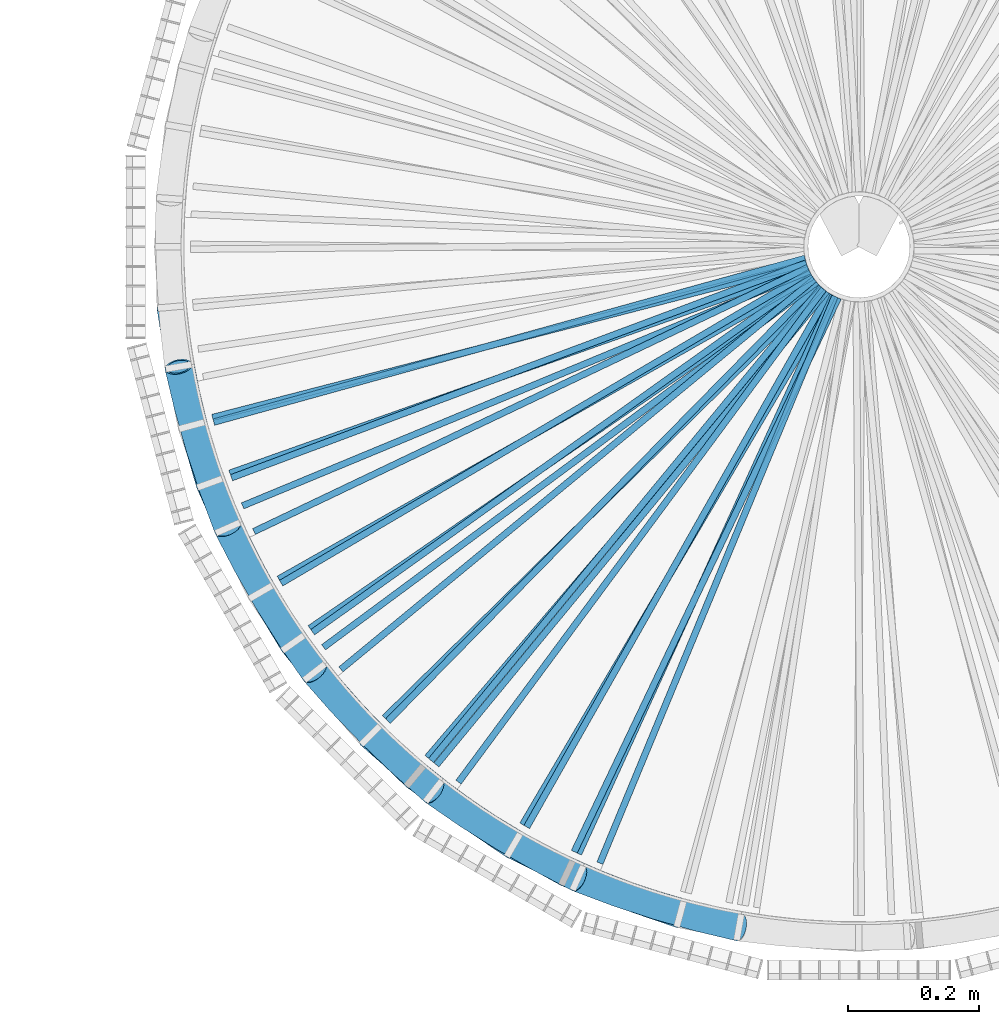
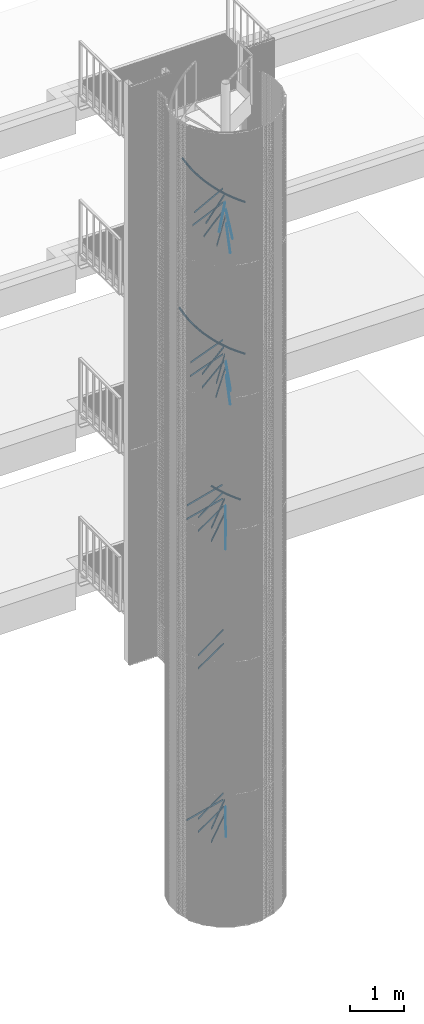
# One storey, part 374 of 1148: 32 beams, 12 members, 16 elements without a shape of their own.
"""IFC2X3 building model written with IfcOpenShell, lengths in millimetres."""

from ifc_helpers import new_model, entity, si_unit, frame, origin_with_axes, origin_2d_with_axis, place, context, subcontext, project, spatial, rectangle, extrude, material, type_object, element, aggregate, save


model = new_model("IFC2X3")

# Units and contexts
model_context = context("Model", 3, precision=1e-05, world=origin_with_axes())
body_context = subcontext(model_context, "Body", "Model", "MODEL_VIEW")
ifc_project = project(units=[si_unit("LENGTHUNIT", "METRE", prefix="MILLI"), si_unit("AREAUNIT", "SQUARE_METRE"), si_unit("VOLUMEUNIT", "CUBIC_METRE"), si_unit("MASSUNIT", "GRAM", prefix="KILO"), si_unit("TIMEUNIT", "SECOND"), si_unit("PLANEANGLEUNIT", "RADIAN"), si_unit("SOLIDANGLEUNIT", "STERADIAN"), si_unit("THERMODYNAMICTEMPERATUREUNIT", "DEGREE_CELSIUS"), si_unit("LUMINOUSINTENSITYUNIT", "LUMEN")], contexts=[model_context])

# Site, building, storey
site_placement = place(None, origin_with_axes())
site = spatial("IfcSite", under=ifc_project, at=site_placement, Name="Undefined", CompositionType="ELEMENT")
building_placement = place(site_placement, origin_with_axes())
building = spatial("IfcBuilding", under=site, at=building_placement, Name="Undefined", CompositionType="ELEMENT")
storey_placement = place(building_placement, origin_with_axes())
storey = spatial("IfcBuildingStorey", under=building, at=storey_placement, Name="Undefined", CompositionType="ELEMENT", Elevation=0.0)

# Assembly, beams
assembly_1_placement = place(storey_placement, origin_with_axes())
assembly_1 = element("IfcElementAssembly", 1, at=assembly_1_placement, inside=storey, Name="POTEAU", AssemblyPlace="NOTDEFINED", PredefinedType="NOTDEFINED")
ifc_material = material(Name="STEEL/S235JR")
beam_type = type_object("IfcBeamType", Name="PL10*40", PredefinedType="NOTDEFINED")
beam_1_placement = place(assembly_1_placement, frame((21537.6063324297, -56.3278473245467, 2139.28), z_axis=(0.0, 0.0, 1.0), x_axis=(-0.701092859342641, -0.713069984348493, 0.0)))
beam_1 = element("IfcBeam", 2, at=beam_1_placement, type_object=beam_type, material=ifc_material, Name="RAIDISSEUR", context=body_context, shape_type="SweptSolid", body=[
    extrude(rectangle(XDim=10.0, YDim=40.0, at=origin_2d_with_axis()), frame((935.982964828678, -2.59787459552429e-14, -3.63797880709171e-12), z_axis=(-1.0, 0.0, 0.0), x_axis=(0.0, -1.0, 0.0)), (0.0, 0.0, 1.0), 935.98),
])
beam_2_placement = place(assembly_1_placement, frame((21525.153625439, -38.2598530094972, 6002.28000000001), z_axis=(0.0, 0.0, 1.0), x_axis=(-0.861759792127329, -0.507316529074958, 0.0)))
beam_2 = element("IfcBeam", 3, at=beam_2_placement, type_object=beam_type, material=ifc_material, Name="RAIDISSEUR", context=body_context, shape_type="SweptSolid", body=[
    extrude(rectangle(XDim=10.0, YDim=40.0, at=origin_2d_with_axis()), frame((935.982964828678, -2.59787459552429e-14, -3.63797880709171e-12), z_axis=(-1.0, 0.0, 0.0), x_axis=(0.0, -1.0, 0.0)), (0.0, 0.0, 1.0), 935.98),
])
beam_3_placement = place(assembly_1_placement, frame((21554.3110647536, -70.5571919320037, 1984.76), z_axis=(0.0, 0.0, 1.0), x_axis=(-0.492647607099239, -0.870228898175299, 0.0)))
beam_3 = element("IfcBeam", 4, at=beam_3_placement, type_object=beam_type, material=ifc_material, Name="RAIDISSEUR", context=body_context, shape_type="SweptSolid", body=[
    extrude(rectangle(XDim=10.0, YDim=40.0, at=origin_2d_with_axis()), frame((935.982964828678, -2.59787459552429e-14, -3.63797880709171e-12), z_axis=(-1.0, 0.0, 0.0), x_axis=(0.0, -1.0, 0.0)), (0.0, 0.0, 1.0), 935.98),
])

assembly_2_placement = place(storey_placement, origin_with_axes())
assembly_2 = element("IfcElementAssembly", 5, at=assembly_2_placement, inside=storey, Name="POTEAU", AssemblyPlace="NOTDEFINED", PredefinedType="NOTDEFINED")
beam_4_placement = place(assembly_2_placement, frame((21550.5026367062, -67.939731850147, 15387.72), z_axis=(0.0, 0.0, 1.0), x_axis=(-0.635879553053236, -0.771788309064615, 0.0)))
beam_4 = element("IfcBeam", 6, at=beam_4_placement, type_object=beam_type, material=ifc_material, Name="RAIDISSEUR", context=body_context, shape_type="SweptSolid", body=[
    extrude(rectangle(XDim=10.0, YDim=40.0, at=origin_2d_with_axis()), frame((935.982964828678, -2.59787459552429e-14, -3.63797880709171e-12), z_axis=(-1.0, 0.0, 0.0), x_axis=(0.0, -1.0, 0.0)), (0.0, 0.0, 1.0), 935.98),
])
beam_5_placement = place(assembly_2_placement, frame((21563.2503817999, -75.5993498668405, 15544.24), z_axis=(0.0, 0.0, 1.0), x_axis=(-0.382921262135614, -0.923780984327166, 0.0)))
beam_5 = element("IfcBeam", 7, at=beam_5_placement, type_object=beam_type, material=ifc_material, Name="RAIDISSEUR", context=body_context, shape_type="SweptSolid", body=[
    extrude(rectangle(XDim=10.0, YDim=40.0, at=origin_2d_with_axis()), frame((935.982964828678, -2.59787459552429e-14, -3.63797880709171e-12), z_axis=(-1.0, 0.0, 0.0), x_axis=(0.0, -1.0, 0.0)), (0.0, 0.0, 1.0), 935.98),
])
beam_6_placement = place(assembly_2_placement, frame((21532.0602681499, -49.4973632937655, 15857.28), z_axis=(0.0, 0.0, 1.0), x_axis=(-0.771788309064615, -0.635879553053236, 0.0)))
beam_6 = element("IfcBeam", 8, at=beam_6_placement, type_object=beam_type, material=ifc_material, Name="RAIDISSEUR", context=body_context, shape_type="SweptSolid", body=[
    extrude(rectangle(XDim=10.0, YDim=40.0, at=origin_2d_with_axis()), frame((935.982964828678, -2.59787459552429e-14, -3.63797880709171e-12), z_axis=(-1.0, 0.0, 0.0), x_axis=(0.0, -1.0, 0.0)), (0.0, 0.0, 1.0), 935.98),
])
beam_7_placement = place(assembly_2_placement, frame((21522.1038725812, -31.5909713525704, 16013.8), z_axis=(0.0, 0.0, 1.0), x_axis=(-0.902696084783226, -0.430278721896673, 0.0)))
beam_7 = element("IfcBeam", 9, at=beam_7_placement, type_object=beam_type, material=ifc_material, Name="RAIDISSEUR", context=body_context, shape_type="SweptSolid", body=[
    extrude(rectangle(XDim=10.0, YDim=40.0, at=origin_2d_with_axis()), frame((935.982964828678, -2.59787459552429e-14, -3.63797880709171e-12), z_axis=(-1.0, 0.0, 0.0), x_axis=(0.0, -1.0, 0.0)), (0.0, 0.0, 1.0), 935.98),
])
beam_8_placement = place(assembly_2_placement, frame((21546.0528644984, -64.4631887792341, 15700.76), z_axis=(0.0, 0.0, 1.0), x_axis=(-0.595029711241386, -0.803703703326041, 0.0)))
beam_8 = element("IfcBeam", 10, at=beam_8_placement, type_object=beam_type, material=ifc_material, Name="RAIDISSEUR", context=body_context, shape_type="SweptSolid", body=[
    extrude(rectangle(XDim=10.0, YDim=40.0, at=origin_2d_with_axis()), frame((935.982964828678, -2.59787459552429e-14, -3.63797880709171e-12), z_axis=(-1.0, 0.0, 0.0), x_axis=(0.0, -1.0, 0.0)), (0.0, 0.0, 1.0), 935.98),
])
beam_9_placement = place(assembly_2_placement, frame((21568.4090286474, -77.896127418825, 15231.2), z_axis=(0.0, 0.0, 1.0), x_axis=(-0.430278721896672, -0.902696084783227, 0.0)))
beam_9 = element("IfcBeam", 11, at=beam_9_placement, type_object=beam_type, material=ifc_material, Name="RAIDISSEUR", context=body_context, shape_type="SweptSolid", body=[
    extrude(rectangle(XDim=10.0, YDim=40.0, at=origin_2d_with_axis()), frame((935.982964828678, -2.59787459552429e-14, -3.63797880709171e-12), z_axis=(-1.0, 0.0, 0.0), x_axis=(0.0, -1.0, 0.0)), (0.0, 0.0, 1.0), 935.98),
])
beam_10_placement = place(assembly_2_placement, frame((21535.5368112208, -53.9471355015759, 15544.24), z_axis=(0.0, 0.0, 1.0), x_axis=(-0.80370370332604, -0.595029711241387, 0.0)))
beam_10 = element("IfcBeam", 12, at=beam_10_placement, type_object=beam_type, material=ifc_material, Name="RAIDISSEUR", context=body_context, shape_type="SweptSolid", body=[
    extrude(rectangle(XDim=10.0, YDim=40.0, at=origin_2d_with_axis()), frame((935.982964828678, -2.59787459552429e-14, -3.63797880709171e-12), z_axis=(-1.0, 0.0, 0.0), x_axis=(0.0, -1.0, 0.0)), (0.0, 0.0, 1.0), 935.98),
])
beam_11_placement = place(assembly_2_placement, frame((21524.4006501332, -36.7496182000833, 15700.76), z_axis=(0.0, 0.0, 1.0), x_axis=(-0.923780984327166, -0.382921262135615, 0.0)))
beam_11 = element("IfcBeam", 13, at=beam_11_placement, type_object=beam_type, material=ifc_material, Name="RAIDISSEUR", context=body_context, shape_type="SweptSolid", body=[
    extrude(rectangle(XDim=10.0, YDim=40.0, at=origin_2d_with_axis()), frame((935.982964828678, -2.59787459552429e-14, -3.63797880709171e-12), z_axis=(-1.0, 0.0, 0.0), x_axis=(0.0, -1.0, 0.0)), (0.0, 0.0, 1.0), 935.98),
])
aggregate(assembly_2, [beam_4, beam_5, beam_6, beam_7, beam_8, beam_9, beam_10, beam_11])

assembly_3_placement = place(storey_placement, origin_with_axes())
assembly_3 = element("IfcElementAssembly", 14, at=assembly_3_placement, inside=storey, Name="POTEAU", AssemblyPlace="NOTDEFINED", PredefinedType="NOTDEFINED")
beam_12_placement = place(assembly_3_placement, frame((21533.6933525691, -51.6645395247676, 12100.76), z_axis=(0.0, 0.0, 1.0), x_axis=(-0.823980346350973, -0.56661838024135, 0.0)))
beam_12 = element("IfcBeam", 15, at=beam_12_placement, type_object=beam_type, material=ifc_material, Name="RAIDISSEUR", context=body_context, shape_type="SweptSolid", body=[
    extrude(rectangle(XDim=10.0, YDim=40.0, at=origin_2d_with_axis()), frame((935.982964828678, -2.59787459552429e-14, -3.63797880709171e-12), z_axis=(-1.0, 0.0, 0.0), x_axis=(0.0, -1.0, 0.0)), (0.0, 0.0, 1.0), 935.98),
])
beam_13_placement = place(assembly_3_placement, frame((21560.6343894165, -74.2707535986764, 12100.76), z_axis=(0.0, 0.0, 1.0), x_axis=(-0.414927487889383, -0.909854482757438, 0.0)))
beam_13 = element("IfcBeam", 16, at=beam_13_placement, type_object=beam_type, material=ifc_material, Name="RAIDISSEUR", context=body_context, shape_type="SweptSolid", body=[
    extrude(rectangle(XDim=10.0, YDim=40.0, at=origin_2d_with_axis()), frame((935.982964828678, -2.59787459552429e-14, -3.63797880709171e-12), z_axis=(-1.0, 0.0, 0.0), x_axis=(0.0, -1.0, 0.0)), (0.0, 0.0, 1.0), 935.98),
])
beam_14_placement = place(assembly_3_placement, frame((21528.7730044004, -44.6375540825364, 12413.8), z_axis=(0.0, 0.0, 1.0), x_axis=(-0.814264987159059, -0.580493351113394, 0.0)))
beam_14 = element("IfcBeam", 17, at=beam_14_placement, type_object=beam_type, material=ifc_material, Name="RAIDISSEUR", context=body_context, shape_type="SweptSolid", body=[
    extrude(rectangle(XDim=10.0, YDim=40.0, at=origin_2d_with_axis()), frame((935.982964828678, -2.59787459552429e-14, -3.63797880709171e-12), z_axis=(-1.0, 0.0, 0.0), x_axis=(0.0, -1.0, 0.0)), (0.0, 0.0, 1.0), 935.98),
])
beam_15_placement = place(assembly_3_placement, frame((21519.6469562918, -24.6816633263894, 12570.32), z_axis=(0.0, 0.0, 1.0), x_axis=(-0.936762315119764, -0.349966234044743, 0.0)))
beam_15 = element("IfcBeam", 18, at=beam_15_placement, type_object=beam_type, material=ifc_material, Name="RAIDISSEUR", context=body_context, shape_type="SweptSolid", body=[
    extrude(rectangle(XDim=10.0, YDim=40.0, at=origin_2d_with_axis()), frame((935.982964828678, -2.59787459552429e-14, -3.63797880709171e-12), z_axis=(-1.0, 0.0, 0.0), x_axis=(0.0, -1.0, 0.0)), (0.0, 0.0, 1.0), 935.98),
])
beam_16_placement = place(assembly_3_placement, frame((21542.753054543, -61.5514692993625, 12257.28), z_axis=(0.0, 0.0, 1.0), x_axis=(-0.636276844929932, -0.771460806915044, 0.0)))
beam_16 = element("IfcBeam", 19, at=beam_16_placement, type_object=beam_type, material=ifc_material, Name="RAIDISSEUR", context=body_context, shape_type="SweptSolid", body=[
    extrude(rectangle(XDim=10.0, YDim=40.0, at=origin_2d_with_axis()), frame((935.982964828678, -2.59787459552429e-14, -3.63797880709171e-12), z_axis=(-1.0, 0.0, 0.0), x_axis=(0.0, -1.0, 0.0)), (0.0, 0.0, 1.0), 935.98),
])
beam_17_placement = place(assembly_3_placement, frame((21568.4090286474, -77.8961274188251, 11787.72), z_axis=(0.0, 0.0, 1.0), x_axis=(-0.430278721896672, -0.902696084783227, 0.0)))
beam_17 = element("IfcBeam", 20, at=beam_17_placement, type_object=beam_type, material=ifc_material, Name="RAIDISSEUR", context=body_context, shape_type="SweptSolid", body=[
    extrude(rectangle(XDim=10.0, YDim=40.0, at=origin_2d_with_axis()), frame((935.982964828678, -2.59787459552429e-14, -3.63797880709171e-12), z_axis=(-1.0, 0.0, 0.0), x_axis=(0.0, -1.0, 0.0)), (0.0, 0.0, 1.0), 935.98),
])
beam_18_placement = place(assembly_3_placement, frame((21549.3244635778, -67.0655362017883, 11944.24), z_axis=(0.0, 0.0, 1.0), x_axis=(-0.649252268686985, -0.760573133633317, 0.0)))
beam_18 = element("IfcBeam", 21, at=beam_18_placement, type_object=beam_type, material=ifc_material, Name="RAIDISSEUR", context=body_context, shape_type="SweptSolid", body=[
    extrude(rectangle(XDim=10.0, YDim=40.0, at=origin_2d_with_axis()), frame((935.982964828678, -2.59787459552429e-14, -3.63797880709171e-12), z_axis=(-1.0, 0.0, 0.0), x_axis=(0.0, -1.0, 0.0)), (0.0, 0.0, 1.0), 935.98),
])
beam_19_placement = place(assembly_3_placement, frame((21522.5809300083, -32.7426898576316, 12257.28), z_axis=(0.0, 0.0, 1.0), x_axis=(-0.942555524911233, -0.33404952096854, 0.0)))
beam_19 = element("IfcBeam", 22, at=beam_19_placement, type_object=beam_type, material=ifc_material, Name="RAIDISSEUR", context=body_context, shape_type="SweptSolid", body=[
    extrude(rectangle(XDim=10.0, YDim=40.0, at=origin_2d_with_axis()), frame((935.982964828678, -2.59787459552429e-14, -3.63797880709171e-12), z_axis=(-1.0, 0.0, 0.0), x_axis=(0.0, -1.0, 0.0)), (0.0, 0.0, 1.0), 935.98),
])
aggregate(assembly_3, [beam_12, beam_13, beam_14, beam_15, beam_16, beam_17, beam_18, beam_19])

assembly_4_placement = place(storey_placement, origin_with_axes())
assembly_4 = element("IfcElementAssembly", 23, at=assembly_4_placement, inside=storey, Name="POTEAU", AssemblyPlace="NOTDEFINED", PredefinedType="NOTDEFINED")
beam_20_placement = place(assembly_4_placement, frame((21561.7401469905, -74.8463745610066, 8500.76000000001), z_axis=(0.0, 0.0, 1.0), x_axis=(-0.50731652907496, -0.861759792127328, 0.0)))
beam_20 = element("IfcBeam", 24, at=beam_20_placement, type_object=beam_type, material=ifc_material, Name="RAIDISSEUR", context=body_context, shape_type="SweptSolid", body=[
    extrude(rectangle(XDim=10.0, YDim=40.0, at=origin_2d_with_axis()), frame((935.982964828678, -2.59787459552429e-14, -3.63797880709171e-12), z_axis=(-1.0, 0.0, 0.0), x_axis=(0.0, -1.0, 0.0)), (0.0, 0.0, 1.0), 935.98),
])
beam_21_placement = place(assembly_4_placement, frame((21520.0218194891, -25.8705774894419, 8970.32000000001), z_axis=(0.0, 0.0, 1.0), x_axis=(-0.968083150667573, -0.250629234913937, 0.0)))
beam_21 = element("IfcBeam", 25, at=beam_21_placement, type_object=beam_type, material=ifc_material, Name="RAIDISSEUR", context=body_context, shape_type="SweptSolid", body=[
    extrude(rectangle(XDim=10.0, YDim=40.0, at=origin_2d_with_axis()), frame((935.982964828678, -2.59787459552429e-14, -3.63797880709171e-12), z_axis=(-1.0, 0.0, 0.0), x_axis=(0.0, -1.0, 0.0)), (0.0, 0.0, 1.0), 935.98),
])
beam_22_placement = place(assembly_4_placement, frame((21525.153625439, -38.2598530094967, 9126.84000000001), z_axis=(0.0, 0.0, 1.0), x_axis=(-0.861759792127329, -0.507316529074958, 0.0)))
beam_22 = element("IfcBeam", 26, at=beam_22_placement, type_object=beam_type, material=ifc_material, Name="RAIDISSEUR", context=body_context, shape_type="SweptSolid", body=[
    extrude(rectangle(XDim=10.0, YDim=40.0, at=origin_2d_with_axis()), frame((935.982964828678, -2.59787459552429e-14, -3.63797880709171e-12), z_axis=(-1.0, 0.0, 0.0), x_axis=(0.0, -1.0, 0.0)), (0.0, 0.0, 1.0), 935.98),
])
beam_23_placement = place(assembly_4_placement, frame((21537.6063324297, -56.3278473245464, 8970.32000000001), z_axis=(0.0, 0.0, 1.0), x_axis=(-0.701092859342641, -0.713069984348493, 0.0)))
beam_23 = element("IfcBeam", 27, at=beam_23_placement, type_object=beam_type, material=ifc_material, Name="RAIDISSEUR", context=body_context, shape_type="SweptSolid", body=[
    extrude(rectangle(XDim=10.0, YDim=40.0, at=origin_2d_with_axis()), frame((935.982964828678, -2.59787459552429e-14, -3.63797880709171e-12), z_axis=(-1.0, 0.0, 0.0), x_axis=(0.0, -1.0, 0.0)), (0.0, 0.0, 1.0), 935.98),
])
beam_24_placement = place(assembly_4_placement, frame((21529.442808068, -45.6889352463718, 8813.80000000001), z_axis=(0.0, 0.0, 1.0), x_axis=(-0.870228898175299, -0.492647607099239, 0.0)))
beam_24 = element("IfcBeam", 28, at=beam_24_placement, type_object=beam_type, material=ifc_material, Name="RAIDISSEUR", context=body_context, shape_type="SweptSolid", body=[
    extrude(rectangle(XDim=10.0, YDim=40.0, at=origin_2d_with_axis()), frame((935.982964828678, -2.59787459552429e-14, -3.63797880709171e-12), z_axis=(-1.0, 0.0, 0.0), x_axis=(0.0, -1.0, 0.0)), (0.0, 0.0, 1.0), 935.98),
])
beam_25_placement = place(assembly_4_placement, frame((21517.8015751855, -17.584512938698, 9283.36000000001), z_axis=(0.0, 0.0, 1.0), x_axis=(-0.963699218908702, -0.266990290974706, 0.0)))
beam_25 = element("IfcBeam", 29, at=beam_25_placement, type_object=beam_type, material=ifc_material, Name="RAIDISSEUR", context=body_context, shape_type="SweptSolid", body=[
    extrude(rectangle(XDim=10.0, YDim=40.0, at=origin_2d_with_axis()), frame((935.982964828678, -2.59787459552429e-14, -3.63797880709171e-12), z_axis=(-1.0, 0.0, 0.0), x_axis=(0.0, -1.0, 0.0)), (0.0, 0.0, 1.0), 935.98),
])
beam_26_placement = place(assembly_4_placement, frame((21543.6721526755, -62.3936675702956, 8657.28000000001), z_axis=(0.0, 0.0, 1.0), x_axis=(-0.713069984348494, -0.70109285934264, 0.0)))
beam_26 = element("IfcBeam", 30, at=beam_26_placement, type_object=beam_type, material=ifc_material, Name="RAIDISSEUR", context=body_context, shape_type="SweptSolid", body=[
    extrude(rectangle(XDim=10.0, YDim=40.0, at=origin_2d_with_axis()), frame((935.982964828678, -2.59787459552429e-14, -3.63797880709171e-12), z_axis=(-1.0, 0.0, 0.0), x_axis=(0.0, -1.0, 0.0)), (0.0, 0.0, 1.0), 935.98),
])
beam_27_placement = place(assembly_4_placement, frame((21554.3110647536, -70.5571919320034, 8813.80000000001), z_axis=(0.0, 0.0, 1.0), x_axis=(-0.492647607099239, -0.870228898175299, 0.0)))
beam_27 = element("IfcBeam", 31, at=beam_27_placement, type_object=beam_type, material=ifc_material, Name="RAIDISSEUR", context=body_context, shape_type="SweptSolid", body=[
    extrude(rectangle(XDim=10.0, YDim=40.0, at=origin_2d_with_axis()), frame((935.982964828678, -2.59787459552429e-14, -3.63797880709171e-12), z_axis=(-1.0, 0.0, 0.0), x_axis=(0.0, -1.0, 0.0)), (0.0, 0.0, 1.0), 935.98),
])
aggregate(assembly_4, [beam_20, beam_21, beam_22, beam_23, beam_24, beam_25, beam_26, beam_27])

# Beam
beam_28_placement = place(assembly_1_placement, frame((21543.6721526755, -62.3936675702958, 1830.24), z_axis=(0.0, 0.0, 1.0), x_axis=(-0.713069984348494, -0.70109285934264, 0.0)))
beam_28 = element("IfcBeam", 32, at=beam_28_placement, type_object=beam_type, material=ifc_material, Name="RAIDISSEUR", context=body_context, shape_type="SweptSolid", body=[
    extrude(rectangle(XDim=10.0, YDim=40.0, at=origin_2d_with_axis()), frame((935.982964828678, -2.59787459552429e-14, -3.63797880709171e-12), z_axis=(-1.0, 0.0, 0.0), x_axis=(0.0, -1.0, 0.0)), (0.0, 0.0, 1.0), 935.98),
])

beam_29_placement = place(assembly_1_placement, frame((21520.0218194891, -25.8705774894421, 2139.28), z_axis=(0.0, 0.0, 1.0), x_axis=(-0.968083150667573, -0.250629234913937, 0.0)))
beam_29 = element("IfcBeam", 33, at=beam_29_placement, type_object=beam_type, material=ifc_material, Name="RAIDISSEUR", context=body_context, shape_type="SweptSolid", body=[
    extrude(rectangle(XDim=10.0, YDim=40.0, at=origin_2d_with_axis()), frame((935.982964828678, -2.59787459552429e-14, -3.63797880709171e-12), z_axis=(-1.0, 0.0, 0.0), x_axis=(0.0, -1.0, 0.0)), (0.0, 0.0, 1.0), 935.98),
])

beam_30_placement = place(assembly_1_placement, frame((21529.442808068, -45.6889352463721, 5693.24), z_axis=(0.0, 0.0, 1.0), x_axis=(-0.870228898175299, -0.492647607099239, 0.0)))
beam_30 = element("IfcBeam", 34, at=beam_30_placement, type_object=beam_type, material=ifc_material, Name="RAIDISSEUR", context=body_context, shape_type="SweptSolid", body=[
    extrude(rectangle(XDim=10.0, YDim=40.0, at=origin_2d_with_axis()), frame((935.982964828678, -2.59787459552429e-14, -3.63797880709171e-12), z_axis=(-1.0, 0.0, 0.0), x_axis=(0.0, -1.0, 0.0)), (0.0, 0.0, 1.0), 935.98),
])

beam_31_placement = place(assembly_1_placement, frame((21529.442808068, -45.6889352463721, 1984.76), z_axis=(0.0, 0.0, 1.0), x_axis=(-0.870228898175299, -0.492647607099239, 0.0)))
beam_31 = element("IfcBeam", 35, at=beam_31_placement, type_object=beam_type, material=ifc_material, Name="RAIDISSEUR", context=body_context, shape_type="SweptSolid", body=[
    extrude(rectangle(XDim=10.0, YDim=40.0, at=origin_2d_with_axis()), frame((935.982964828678, -2.59787459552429e-14, -3.63797880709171e-12), z_axis=(-1.0, 0.0, 0.0), x_axis=(0.0, -1.0, 0.0)), (0.0, 0.0, 1.0), 935.98),
])

beam_32_placement = place(assembly_1_placement, frame((21525.153625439, -38.2598530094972, 2293.8), z_axis=(0.0, 0.0, 1.0), x_axis=(-0.861759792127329, -0.507316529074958, 0.0)))
beam_32 = element("IfcBeam", 36, at=beam_32_placement, type_object=beam_type, material=ifc_material, Name="RAIDISSEUR", context=body_context, shape_type="SweptSolid", body=[
    extrude(rectangle(XDim=10.0, YDim=40.0, at=origin_2d_with_axis()), frame((935.982964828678, -2.59787459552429e-14, -3.63797880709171e-12), z_axis=(-1.0, 0.0, 0.0), x_axis=(0.0, -1.0, 0.0)), (0.0, 0.0, 1.0), 935.98),
])

aggregate(assembly_1, [beam_1, beam_2, beam_3, beam_28, beam_29, beam_30, beam_31, beam_32])

# Assembly, member
assembly_5_placement = place(storey_placement, origin_with_axes())
assembly_5 = element("IfcElementAssembly", 37, at=assembly_5_placement, inside=storey, Name="MONTANT", AssemblyPlace="NOTDEFINED", PredefinedType="NOTDEFINED")
member_type = type_object("IfcMemberType", Name="TUBE-42.4*3.2", PredefinedType="NOTDEFINED")
member_1_placement = place(assembly_5_placement, frame((21072.9999999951, -912.790775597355, 9781.28000000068), z_axis=(-0.608761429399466, -0.793353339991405, 1.80915776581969e-10), x_axis=(-0.689586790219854, 0.5291385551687, 0.494451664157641)))
member_1 = element("IfcMember", 38, at=member_1_placement, type_object=member_type, material=ifc_material, Name="MAIN_COURANTE", context=body_context, shape_type="SweptSolid", body=[
    entity("IfcRevolvedAreaSolid", entity("IfcCircleHollowProfileDef", "AREA", None, entity("IfcAxis2Placement2D", entity("IfcCartesianPoint", [0.0, 0.0]), entity("IfcDirection", [1.0, 0.0])), 21.200000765, 3.200000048), entity("IfcAxis2Placement3D", entity("IfcCartesianPoint", [316.552681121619, 9.09494701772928e-13, -1.82569453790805e-12]), entity("IfcDirection", [-0.997177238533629, 2.1263748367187e-18, 0.0750836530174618]), entity("IfcDirection", [0.0, -1.0, 0.0])), entity("IfcAxis1Placement", entity("IfcCartesianPoint", [0.0, -2108.0, 0.0]), entity("IfcDirection", [1.0, 0.0, 0.0])), 0.150308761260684),
])
aggregate(assembly_5, [member_1])

assembly_6_placement = place(storey_placement, origin_with_axes())
assembly_6 = element("IfcElementAssembly", 39, at=assembly_6_placement, inside=storey, Name="MONTANT", AssemblyPlace="NOTDEFINED", PredefinedType="NOTDEFINED")
member_2_placement = place(assembly_6_placement, frame((21327.2047264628, -1018.08582090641, 9624.76000000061), z_axis=(-0.382683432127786, -0.923879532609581, 1.50204868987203e-10), x_axis=(-0.803040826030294, 0.332630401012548, 0.494451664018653)))
member_2 = element("IfcMember", 40, at=member_2_placement, type_object=member_type, material=ifc_material, Name="MAIN_COURANTE", context=body_context, shape_type="SweptSolid", body=[
    entity("IfcRevolvedAreaSolid", entity("IfcCircleHollowProfileDef", "AREA", None, entity("IfcAxis2Placement2D", entity("IfcCartesianPoint", [0.0, 0.0]), entity("IfcDirection", [1.0, 0.0])), 21.200000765, 3.200000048), entity("IfcAxis2Placement3D", entity("IfcCartesianPoint", [316.552681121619, 9.09494701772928e-13, -1.82569453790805e-12]), entity("IfcDirection", [-0.997177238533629, 2.1263748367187e-18, 0.0750836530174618]), entity("IfcDirection", [0.0, -1.0, 0.0])), entity("IfcAxis1Placement", entity("IfcCartesianPoint", [0.0, -2108.0, 0.0]), entity("IfcDirection", [1.0, 0.0, 0.0])), 0.15030876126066),
])
aggregate(assembly_6, [member_2])

assembly_7_placement = place(storey_placement, origin_with_axes())
assembly_7 = element("IfcElementAssembly", 41, at=assembly_7_placement, inside=storey, Name="MONTANT", AssemblyPlace="NOTDEFINED", PredefinedType="NOTDEFINED")
member_3_placement = place(assembly_7_placement, frame((20609.563977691, -360.489231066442, 13537.8000000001), z_axis=(-0.97629600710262, -0.216439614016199, 3.63797880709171e-12), x_axis=(-0.188130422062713, 0.848601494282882, 0.494451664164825)))
member_3 = element("IfcMember", 42, at=member_3_placement, type_object=member_type, material=ifc_material, Name="MAIN_COURANTE", context=body_context, shape_type="SweptSolid", body=[
    entity("IfcRevolvedAreaSolid", entity("IfcCircleHollowProfileDef", "AREA", None, entity("IfcAxis2Placement2D", entity("IfcCartesianPoint", [0.0, 0.0]), entity("IfcDirection", [1.0, 0.0])), 21.200000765, 3.200000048), entity("IfcAxis2Placement3D", entity("IfcCartesianPoint", [316.552681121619, 9.09494701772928e-13, -1.82569453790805e-12]), entity("IfcDirection", [-0.997177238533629, 2.1263748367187e-18, 0.0750836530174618]), entity("IfcDirection", [0.0, -1.0, 0.0])), entity("IfcAxis1Placement", entity("IfcCartesianPoint", [0.0, -2108.0, 0.0]), entity("IfcDirection", [1.0, 0.0, 0.0])), 0.150308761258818),
])
aggregate(assembly_7, [member_3])

assembly_8_placement = place(storey_placement, origin_with_axes())
assembly_8 = element("IfcElementAssembly", 43, at=assembly_8_placement, inside=storey, Name="MONTANT", AssemblyPlace="NOTDEFINED", PredefinedType="NOTDEFINED")
member_4_placement = place(assembly_8_placement, frame((20736.6137453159, -604.549563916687, 13381.2799999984), z_axis=(-0.887010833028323, -0.461748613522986, -2.56448402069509e-10), x_axis=(-0.401354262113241, 0.770994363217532, 0.494451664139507)))
member_4 = element("IfcMember", 44, at=member_4_placement, type_object=member_type, material=ifc_material, Name="MAIN_COURANTE", context=body_context, shape_type="SweptSolid", body=[
    entity("IfcRevolvedAreaSolid", entity("IfcCircleHollowProfileDef", "AREA", None, entity("IfcAxis2Placement2D", entity("IfcCartesianPoint", [0.0, 0.0]), entity("IfcDirection", [1.0, 0.0])), 21.200000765, 3.200000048), entity("IfcAxis2Placement3D", entity("IfcCartesianPoint", [316.552681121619, 9.09494701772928e-13, -1.82569453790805e-12]), entity("IfcDirection", [-0.997177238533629, 2.1263748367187e-18, 0.0750836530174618]), entity("IfcDirection", [0.0, -1.0, 0.0])), entity("IfcAxis1Placement", entity("IfcCartesianPoint", [0.0, -2108.0, 0.0]), entity("IfcDirection", [1.0, 0.0, 0.0])), 0.150308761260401),
])
aggregate(assembly_8, [member_4])

assembly_9_placement = place(storey_placement, origin_with_axes())
assembly_9 = element("IfcElementAssembly", 45, at=assembly_9_placement, inside=storey, Name="MONTANT", AssemblyPlace="NOTDEFINED", PredefinedType="NOTDEFINED")
member_5_placement = place(assembly_9_placement, frame((20922.5018593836, -807.410843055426, 13224.7600000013), z_axis=(-0.737277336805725, -0.675590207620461, 8.45175236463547e-11), x_axis=(-0.587226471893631, 0.640845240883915, 0.494451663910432)))
member_5 = element("IfcMember", 46, at=member_5_placement, type_object=member_type, material=ifc_material, Name="MAIN_COURANTE", context=body_context, shape_type="SweptSolid", body=[
    entity("IfcRevolvedAreaSolid", entity("IfcCircleHollowProfileDef", "AREA", None, entity("IfcAxis2Placement2D", entity("IfcCartesianPoint", [0.0, 0.0]), entity("IfcDirection", [1.0, 0.0])), 21.200000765, 3.200000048), entity("IfcAxis2Placement3D", entity("IfcCartesianPoint", [316.552681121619, 9.09494701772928e-13, -1.82569453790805e-12]), entity("IfcDirection", [-0.997177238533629, 2.1263748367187e-18, 0.0750836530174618]), entity("IfcDirection", [0.0, -1.0, 0.0])), entity("IfcAxis1Placement", entity("IfcCartesianPoint", [0.0, -2108.0, 0.0]), entity("IfcDirection", [1.0, 0.0, 0.0])), 0.150308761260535),
])
aggregate(assembly_9, [member_5])

assembly_10_placement = place(storey_placement, origin_with_axes())
assembly_10 = element("IfcElementAssembly", 47, at=assembly_10_placement, inside=storey, Name="MONTANT", AssemblyPlace="NOTDEFINED", PredefinedType="NOTDEFINED")
member_6_placement = place(assembly_10_placement, frame((21154.5603521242, -955.248407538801, 13068.2400000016), z_axis=(-0.537299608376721, -0.843391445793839, 2.43750037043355e-10), x_axis=(-0.733080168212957, 0.467023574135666, 0.494451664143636)))
member_6 = element("IfcMember", 48, at=member_6_placement, type_object=member_type, material=ifc_material, Name="MAIN_COURANTE", context=body_context, shape_type="SweptSolid", body=[
    entity("IfcRevolvedAreaSolid", entity("IfcCircleHollowProfileDef", "AREA", None, entity("IfcAxis2Placement2D", entity("IfcCartesianPoint", [0.0, 0.0]), entity("IfcDirection", [1.0, 0.0])), 21.200000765, 3.200000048), entity("IfcAxis2Placement3D", entity("IfcCartesianPoint", [316.552681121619, 9.09494701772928e-13, -1.82569453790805e-12]), entity("IfcDirection", [-0.997177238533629, 2.1263748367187e-18, 0.0750836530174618]), entity("IfcDirection", [0.0, -1.0, 0.0])), entity("IfcAxis1Placement", entity("IfcCartesianPoint", [0.0, -2108.0, 0.0]), entity("IfcDirection", [1.0, 0.0, 0.0])), 0.150308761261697),
])
aggregate(assembly_10, [member_6])

assembly_11_placement = place(storey_placement, origin_with_axes())
assembly_11 = element("IfcElementAssembly", 49, at=assembly_11_placement, inside=storey, Name="MONTANT", AssemblyPlace="NOTDEFINED", PredefinedType="NOTDEFINED")
member_7_placement = place(assembly_11_placement, frame((21416.9748207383, -1037.98737168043, 12911.7199999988), z_axis=(-0.300705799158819, -0.953716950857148, -4.31926309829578e-10), x_axis=(-0.828975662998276, 0.261375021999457, 0.494451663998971)))
member_7 = element("IfcMember", 50, at=member_7_placement, type_object=member_type, material=ifc_material, Name="MAIN_COURANTE", context=body_context, shape_type="SweptSolid", body=[
    entity("IfcRevolvedAreaSolid", entity("IfcCircleHollowProfileDef", "AREA", None, entity("IfcAxis2Placement2D", entity("IfcCartesianPoint", [0.0, 0.0]), entity("IfcDirection", [1.0, 0.0])), 21.200000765, 3.200000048), entity("IfcAxis2Placement3D", entity("IfcCartesianPoint", [316.552681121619, 9.09494701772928e-13, -1.82569453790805e-12]), entity("IfcDirection", [-0.997177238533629, 2.1263748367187e-18, 0.0750836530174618]), entity("IfcDirection", [0.0, -1.0, 0.0])), entity("IfcAxis1Placement", entity("IfcCartesianPoint", [0.0, -2108.0, 0.0]), entity("IfcDirection", [1.0, 0.0, 0.0])), 0.150308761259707),
])
aggregate(assembly_11, [member_7])

assembly_12_placement = place(storey_placement, origin_with_axes())
assembly_12 = element("IfcElementAssembly", 51, at=assembly_12_placement, inside=storey, Name="MONTANT", AssemblyPlace="NOTDEFINED", PredefinedType="NOTDEFINED")
member_8_placement = place(assembly_12_placement, frame((20637.1230876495, -428.700421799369, 16981.2800000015), z_axis=(-0.956304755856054, -0.292371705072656, -6.79756340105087e-11), x_axis=(-0.249680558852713, 0.81666830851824, 0.520300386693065)))
member_8 = element("IfcMember", 52, at=member_8_placement, type_object=member_type, material=ifc_material, Name="MAIN_COURANTE", context=body_context, shape_type="SweptSolid", body=[
    entity("IfcRevolvedAreaSolid", entity("IfcCircleHollowProfileDef", "AREA", None, entity("IfcAxis2Placement2D", entity("IfcCartesianPoint", [0.0, 0.0]), entity("IfcDirection", [1.0, 0.0])), 21.200000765, 3.200000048), entity("IfcAxis2Placement3D", entity("IfcCartesianPoint", [300.826222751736, 9.26193911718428e-13, -2.55538133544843e-15]), entity("IfcDirection", [-0.997451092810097, -5.56582410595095e-17, 0.0713534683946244]), entity("IfcDirection", [0.0, -1.0, 0.0])), entity("IfcAxis1Placement", entity("IfcCartesianPoint", [0.0, -2108.0, 0.0]), entity("IfcDirection", [1.0, 0.0, 0.0])), 0.142828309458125),
])
aggregate(assembly_12, [member_8])

assembly_13_placement = place(storey_placement, origin_with_axes())
assembly_13 = element("IfcElementAssembly", 53, at=assembly_13_placement, inside=storey, Name="MONTANT", AssemblyPlace="NOTDEFINED", PredefinedType="NOTDEFINED")
member_9_placement = place(assembly_13_placement, frame((20769.4366656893, -648.90719499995, 16824.7600000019), z_axis=(-0.857167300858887, -0.515038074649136, 1.38954419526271e-10), x_axis=(-0.439833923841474, 0.732006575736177, 0.520300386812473)))
member_9 = element("IfcMember", 54, at=member_9_placement, type_object=member_type, material=ifc_material, Name="MAIN_COURANTE", context=body_context, shape_type="SweptSolid", body=[
    entity("IfcRevolvedAreaSolid", entity("IfcCircleHollowProfileDef", "AREA", None, entity("IfcAxis2Placement2D", entity("IfcCartesianPoint", [0.0, 0.0]), entity("IfcDirection", [1.0, 0.0])), 21.200000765, 3.200000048), entity("IfcAxis2Placement3D", entity("IfcCartesianPoint", [300.826222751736, 9.26193911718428e-13, -2.55538133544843e-15]), entity("IfcDirection", [-0.997451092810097, -5.56582410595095e-17, 0.0713534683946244]), entity("IfcDirection", [0.0, -1.0, 0.0])), entity("IfcAxis1Placement", entity("IfcCartesianPoint", [0.0, -2108.0, 0.0]), entity("IfcDirection", [1.0, 0.0, 0.0])), 0.142828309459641),
])
aggregate(assembly_13, [member_9])

assembly_14_placement = place(storey_placement, origin_with_axes())
assembly_14 = element("IfcElementAssembly", 55, at=assembly_14_placement, inside=storey, Name="MONTANT", AssemblyPlace="NOTDEFINED", PredefinedType="NOTDEFINED")
member_10_placement = place(assembly_14_placement, frame((20951.0928050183, -830.563334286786, 16668.2400000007), z_axis=(-0.70710678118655, -0.707106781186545, 0.0), x_axis=(-0.603857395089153, 0.603857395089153, 0.520300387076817)))
member_10 = element("IfcMember", 56, at=member_10_placement, type_object=member_type, material=ifc_material, Name="MAIN_COURANTE", context=body_context, shape_type="SweptSolid", body=[
    entity("IfcRevolvedAreaSolid", entity("IfcCircleHollowProfileDef", "AREA", None, entity("IfcAxis2Placement2D", entity("IfcCartesianPoint", [0.0, 0.0]), entity("IfcDirection", [1.0, 0.0])), 21.200000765, 3.200000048), entity("IfcAxis2Placement3D", entity("IfcCartesianPoint", [300.826222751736, 9.26193911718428e-13, -2.55538133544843e-15]), entity("IfcDirection", [-0.997451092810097, -5.56582410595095e-17, 0.0713534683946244]), entity("IfcDirection", [0.0, -1.0, 0.0])), entity("IfcAxis1Placement", entity("IfcCartesianPoint", [0.0, -2108.0, 0.0]), entity("IfcDirection", [1.0, 0.0, 0.0])), 0.142828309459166),
])
aggregate(assembly_14, [member_10])

assembly_15_placement = place(storey_placement, origin_with_axes())
assembly_15 = element("IfcElementAssembly", 57, at=assembly_15_placement, inside=storey, Name="MONTANT", AssemblyPlace="NOTDEFINED", PredefinedType="NOTDEFINED")
member_11_placement = place(assembly_15_placement, frame((21171.2995782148, -962.87691231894, 16511.7200000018), z_axis=(-0.515038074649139, -0.857167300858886, -1.38954419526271e-10), x_axis=(-0.732006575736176, 0.439833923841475, 0.520300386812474)))
member_11 = element("IfcMember", 58, at=member_11_placement, type_object=member_type, material=ifc_material, Name="MAIN_COURANTE", context=body_context, shape_type="SweptSolid", body=[
    entity("IfcRevolvedAreaSolid", entity("IfcCircleHollowProfileDef", "AREA", None, entity("IfcAxis2Placement2D", entity("IfcCartesianPoint", [0.0, 0.0]), entity("IfcDirection", [1.0, 0.0])), 21.200000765, 3.200000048), entity("IfcAxis2Placement3D", entity("IfcCartesianPoint", [300.826222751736, 9.26193911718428e-13, -2.55538133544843e-15]), entity("IfcDirection", [-0.997451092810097, -5.56582410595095e-17, 0.0713534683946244]), entity("IfcDirection", [0.0, -1.0, 0.0])), entity("IfcAxis1Placement", entity("IfcCartesianPoint", [0.0, -2108.0, 0.0]), entity("IfcDirection", [1.0, 0.0, 0.0])), 0.14282830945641),
])
aggregate(assembly_15, [member_11])

assembly_16_placement = place(storey_placement, origin_with_axes())
assembly_16 = element("IfcElementAssembly", 59, at=assembly_16_placement, inside=storey, Name="MONTANT", AssemblyPlace="NOTDEFINED", PredefinedType="NOTDEFINED")
member_12_placement = place(assembly_16_placement, frame((21416.9748207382, -1037.98737167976, 16355.2000000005), z_axis=(-0.292371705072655, -0.956304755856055, 6.79719960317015e-11), x_axis=(-0.816668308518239, 0.249680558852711, 0.520300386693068)))
member_12 = element("IfcMember", 60, at=member_12_placement, type_object=member_type, material=ifc_material, Name="MAIN_COURANTE", context=body_context, shape_type="SweptSolid", body=[
    entity("IfcRevolvedAreaSolid", entity("IfcCircleHollowProfileDef", "AREA", None, entity("IfcAxis2Placement2D", entity("IfcCartesianPoint", [0.0, 0.0]), entity("IfcDirection", [1.0, 0.0])), 21.200000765, 3.200000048), entity("IfcAxis2Placement3D", entity("IfcCartesianPoint", [300.826222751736, 9.26193911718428e-13, -2.55538133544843e-15]), entity("IfcDirection", [-0.997451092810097, -5.56582410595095e-17, 0.0713534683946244]), entity("IfcDirection", [0.0, -1.0, 0.0])), entity("IfcAxis1Placement", entity("IfcCartesianPoint", [0.0, -2108.0, 0.0]), entity("IfcDirection", [1.0, 0.0, 0.0])), 0.142828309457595),
])
aggregate(assembly_16, [member_12])

save(model, "model.ifc")
